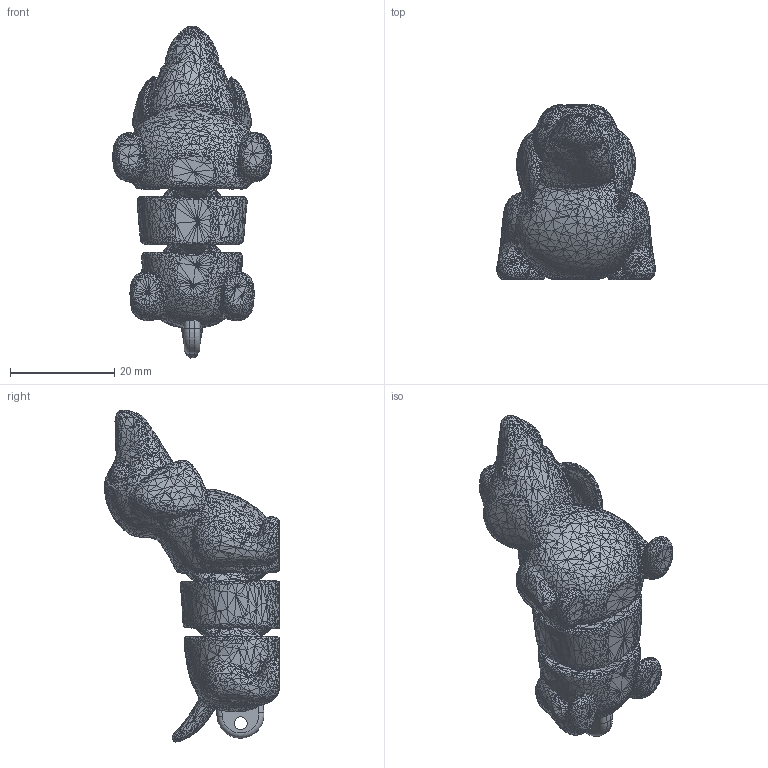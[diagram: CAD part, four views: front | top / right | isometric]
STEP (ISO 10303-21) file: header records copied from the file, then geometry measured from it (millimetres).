
FILE_DESCRIPTION(/* description */ (''),/* implementation_level */ '2;1');
FILE_NAME(/* name */ 'bassotto v3.step',/* time_stamp */ '2024-11-02T11:35:03+01:00',/* author */ (''),/* organization */ (''),/* preprocessor_version */ 'ST-DEVELOPER v20',/* originating_system */ 'Autodesk Translation Framework v13.20.0.188',/* authorisation */ '');
FILE_SCHEMA (('AUTOMOTIVE_DESIGN { 1 0 10303 214 3 1 1 }'));
Products named in the file (1): bassotto v2
Bounding box: 30.43 x 33.56 x 63.69 mm (x, y, z)
Volume: 15797.8 mm3; surface area: 6504 mm2
Topology: 3 solids, 3 shells, 21680 faces, 32604 edges, 10869 vertices
Faces by surface type: plane 21668, cylinder 8, torus 2, cone 2
Full cylindrical faces by diameter (mm): 1.456 x1, 1.573 x1, 2.5 x1
Entity records: 423524 total; most frequent: DIRECTION 76033, ORIENTED_EDGE 65208, CARTESIAN_POINT 65154, EDGE_CURVE 32604, LINE 32537, VECTOR 32537, AXIS2_PLACEMENT_3D 21748, EDGE_LOOP 21682
